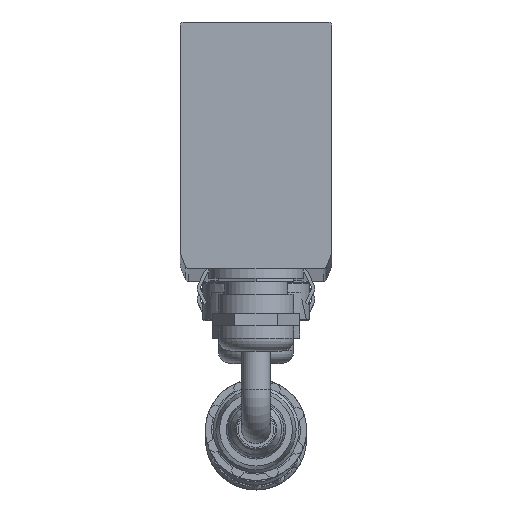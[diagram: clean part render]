
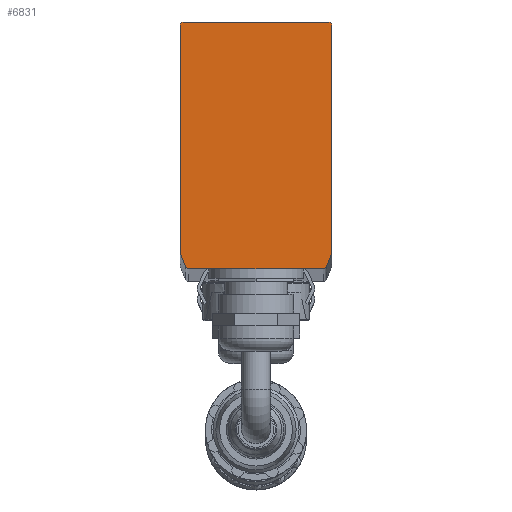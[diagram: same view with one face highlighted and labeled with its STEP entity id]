
A CAD part, top view. The second image highlights one B-rep face of the part: STEP entity #6831.
In plain terms, the highlighted planar face has unit normal (0, 0, 1).
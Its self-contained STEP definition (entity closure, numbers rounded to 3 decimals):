
#297=CIRCLE('',#6850,0.5);
#299=CIRCLE('',#6853,0.5);
#303=CIRCLE('',#6859,0.5);
#305=CIRCLE('',#6863,0.5);
#307=CIRCLE('',#6867,0.5);
#309=CIRCLE('',#6870,0.5);
#2693=ORIENTED_EDGE('',*,*,#2823,.T.);
#2694=ORIENTED_EDGE('',*,*,#2829,.T.);
#2695=ORIENTED_EDGE('',*,*,#2831,.T.);
#2696=ORIENTED_EDGE('',*,*,#2825,.T.);
#2697=ORIENTED_EDGE('',*,*,#2786,.T.);
#2698=ORIENTED_EDGE('',*,*,#2793,.T.);
#2699=ORIENTED_EDGE('',*,*,#2800,.T.);
#2700=ORIENTED_EDGE('',*,*,#2789,.T.);
#2701=ORIENTED_EDGE('',*,*,#2782,.T.);
#2702=ORIENTED_EDGE('',*,*,#2814,.T.);
#2703=ORIENTED_EDGE('',*,*,#2817,.T.);
#2704=ORIENTED_EDGE('',*,*,#2820,.T.);
#2782=EDGE_CURVE('',#3765,#3764,#4436,.T.);
#2786=EDGE_CURVE('',#3769,#3768,#4440,.T.);
#2789=EDGE_CURVE('',#3771,#3765,#297,.T.);
#2793=EDGE_CURVE('',#3768,#3774,#299,.T.);
#2800=EDGE_CURVE('',#3774,#3771,#4449,.T.);
#2814=EDGE_CURVE('',#3764,#3792,#303,.T.);
#2817=EDGE_CURVE('',#3792,#3794,#4463,.T.);
#2820=EDGE_CURVE('',#3794,#3796,#305,.T.);
#2823=EDGE_CURVE('',#3796,#3798,#4467,.T.);
#2825=EDGE_CURVE('',#3799,#3769,#307,.T.);
#2829=EDGE_CURVE('',#3798,#3802,#309,.T.);
#2831=EDGE_CURVE('',#3802,#3799,#4471,.T.);
#3764=VERTEX_POINT('',#9770);
#3765=VERTEX_POINT('',#9772);
#3768=VERTEX_POINT('',#9779);
#3769=VERTEX_POINT('',#9781);
#3771=VERTEX_POINT('',#9787);
#3774=VERTEX_POINT('',#9794);
#3792=VERTEX_POINT('',#9835);
#3794=VERTEX_POINT('',#9841);
#3796=VERTEX_POINT('',#9847);
#3798=VERTEX_POINT('',#9853);
#3799=VERTEX_POINT('',#9858);
#3802=VERTEX_POINT('',#9865);
#4436=LINE('',#9771,#4824);
#4440=LINE('',#9780,#4828);
#4449=LINE('',#9808,#4837);
#4463=LINE('',#9842,#4851);
#4467=LINE('',#9854,#4855);
#4471=LINE('',#9869,#4859);
#4824=VECTOR('',#7695,1000.);
#4828=VECTOR('',#7701,1000.);
#4837=VECTOR('',#7726,1000.);
#4851=VECTOR('',#7750,1000.);
#4855=VECTOR('',#7762,1000.);
#4859=VECTOR('',#7780,1000.);
#5715=EDGE_LOOP('',(#2693,#2694,#2695,#2696,#2697,#2698,#2699,#2700,#2701,
#2702,#2703,#2704));
#6223=FACE_BOUND('',#5715,.T.);
#6426=PLANE('',#7687);
#6831=ADVANCED_FACE('',(#6223),#6426,.T.);
#6850=AXIS2_PLACEMENT_3D('',#9786,#7706,#7707);
#6853=AXIS2_PLACEMENT_3D('',#9795,#7714,#7715);
#6859=AXIS2_PLACEMENT_3D('',#9836,#7743,#7744);
#6863=AXIS2_PLACEMENT_3D('',#9848,#7755,#7756);
#6867=AXIS2_PLACEMENT_3D('',#9857,#7766,#7767);
#6870=AXIS2_PLACEMENT_3D('',#9866,#7774,#7775);
#7687=AXIS2_PLACEMENT_3D('',#12159,#9760,#9761);
#7695=DIRECTION('',(0.371,0.928,0.));
#7701=DIRECTION('',(0.371,-0.928,0.));
#7706=DIRECTION('',(0.,0.,1.));
#7707=DIRECTION('',(0.,-1.,0.));
#7714=DIRECTION('',(0.,0.,1.));
#7715=DIRECTION('',(-0.928,-0.371,0.));
#7726=DIRECTION('',(1.,0.,0.));
#7743=DIRECTION('',(0.,0.,1.));
#7744=DIRECTION('',(0.928,-0.371,0.));
#7750=DIRECTION('',(0.,1.,0.));
#7755=DIRECTION('',(0.,0.,1.));
#7756=DIRECTION('',(1.,0.,0.));
#7762=DIRECTION('',(-1.,0.,0.));
#7766=DIRECTION('',(0.,0.,1.));
#7767=DIRECTION('',(-1.,0.,0.));
#7774=DIRECTION('',(0.,0.,1.));
#7775=DIRECTION('',(0.,1.,0.));
#7780=DIRECTION('',(0.,-1.,0.));
#9760=DIRECTION('',(0.,0.,1.));
#9761=DIRECTION('',(1.,0.,0.));
#9770=CARTESIAN_POINT('',(11.964,37.901,575.85));
#9771=CARTESIAN_POINT('',(11.126,35.804,575.85));
#9772=CARTESIAN_POINT('',(11.126,35.804,575.85));
#9779=CARTESIAN_POINT('',(-11.126,35.804,575.85));
#9780=CARTESIAN_POINT('',(-11.964,37.901,575.85));
#9781=CARTESIAN_POINT('',(-11.964,37.901,575.85));
#9786=CARTESIAN_POINT('',(10.661,35.99,575.85));
#9787=CARTESIAN_POINT('',(10.661,35.49,575.85));
#9794=CARTESIAN_POINT('',(-10.661,35.49,575.85));
#9795=CARTESIAN_POINT('',(-10.661,35.99,575.85));
#9808=CARTESIAN_POINT('',(-10.661,35.49,575.85));
#9835=CARTESIAN_POINT('',(12.,38.086,575.85));
#9836=CARTESIAN_POINT('',(11.5,38.086,575.85));
#9841=CARTESIAN_POINT('',(12.,73.99,575.85));
#9842=CARTESIAN_POINT('',(12.,38.086,575.85));
#9847=CARTESIAN_POINT('',(11.5,74.49,575.85));
#9848=CARTESIAN_POINT('',(11.5,73.99,575.85));
#9853=CARTESIAN_POINT('',(-11.5,74.49,575.85));
#9854=CARTESIAN_POINT('',(11.5,74.49,575.85));
#9857=CARTESIAN_POINT('',(-11.5,38.086,575.85));
#9858=CARTESIAN_POINT('',(-12.,38.086,575.85));
#9865=CARTESIAN_POINT('',(-12.,73.99,575.85));
#9866=CARTESIAN_POINT('',(-11.5,73.99,575.85));
#9869=CARTESIAN_POINT('',(-12.,73.99,575.85));
#12159=CARTESIAN_POINT('',(0.,54.99,575.85));
